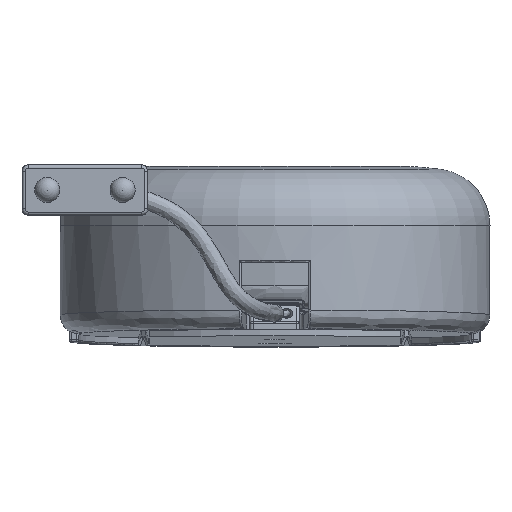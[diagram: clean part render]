
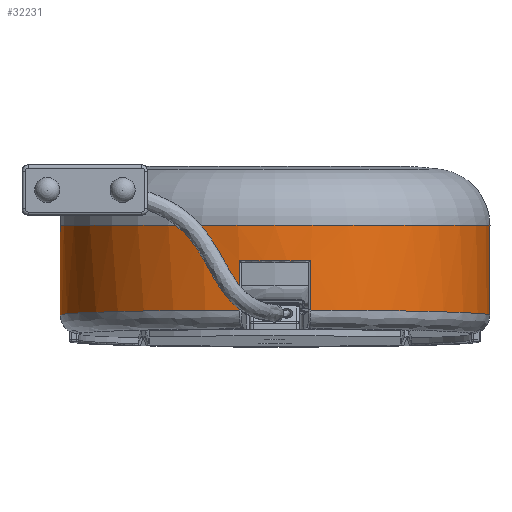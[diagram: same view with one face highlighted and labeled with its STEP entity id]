
A CAD part, front view. The second image highlights one B-rep face of the part: STEP entity #32231.
In plain terms, the highlighted cylindrical face has radius 34.2 mm (diameter 68.4 mm), a partial arc.
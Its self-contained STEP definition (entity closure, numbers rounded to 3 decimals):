
#479=CIRCLE('',#34410,34.2);
#4516=FACE_OUTER_BOUND('',#6460,.T.);
#6460=EDGE_LOOP('',(#23717,#23718,#23719,#23720,#23721,#23722,#23723,#23724));
#8314=ELLIPSE('',#34382,34.232,34.2);
#8324=ELLIPSE('',#34406,34.21,34.2);
#8326=ELLIPSE('',#34409,34.21,34.2);
#8906=LINE('',#53393,#11361);
#8913=LINE('',#53871,#11368);
#8923=LINE('',#54038,#11378);
#8924=LINE('',#54041,#11379);
#11361=VECTOR('',#37996,10.);
#11368=VECTOR('',#38041,10.);
#11378=VECTOR('',#38073,10.);
#11379=VECTOR('',#38076,10.);
#14095=VERTEX_POINT('',#53390);
#14096=VERTEX_POINT('',#53392);
#14099=VERTEX_POINT('',#53432);
#14113=VERTEX_POINT('',#53862);
#14123=VERTEX_POINT('',#54031);
#14124=VERTEX_POINT('',#54035);
#14125=VERTEX_POINT('',#54037);
#14126=VERTEX_POINT('',#54039);
#17688=EDGE_CURVE('',#14095,#14096,#8906,.T.);
#17692=EDGE_CURVE('',#14096,#14099,#8314,.T.);
#17715=EDGE_CURVE('',#14099,#14113,#8913,.T.);
#17732=EDGE_CURVE('',#14113,#14123,#8324,.T.);
#17734=EDGE_CURVE('',#14124,#14095,#8326,.T.);
#17735=EDGE_CURVE('',#14125,#14124,#8923,.T.);
#17736=EDGE_CURVE('',#14126,#14125,#479,.T.);
#17737=EDGE_CURVE('',#14123,#14126,#8924,.T.);
#23717=ORIENTED_EDGE('',*,*,#17715,.F.);
#23718=ORIENTED_EDGE('',*,*,#17692,.F.);
#23719=ORIENTED_EDGE('',*,*,#17688,.F.);
#23720=ORIENTED_EDGE('',*,*,#17734,.F.);
#23721=ORIENTED_EDGE('',*,*,#17735,.F.);
#23722=ORIENTED_EDGE('',*,*,#17736,.F.);
#23723=ORIENTED_EDGE('',*,*,#17737,.F.);
#23724=ORIENTED_EDGE('',*,*,#17732,.F.);
#31567=CYLINDRICAL_SURFACE('',#34408,34.2);
#32231=ADVANCED_FACE('',(#4516),#31567,.T.);
#34382=AXIS2_PLACEMENT_3D('',#53433,#38001,#38002);
#34406=AXIS2_PLACEMENT_3D('',#54032,#38065,#38066);
#34408=AXIS2_PLACEMENT_3D('',#54034,#38069,#38070);
#34409=AXIS2_PLACEMENT_3D('',#54036,#38071,#38072);
#34410=AXIS2_PLACEMENT_3D('',#54040,#38074,#38075);
#37996=DIRECTION('',(0.001,0.,1.));
#38001=DIRECTION('center_axis',(0.,-0.043,
-0.999));
#38002=DIRECTION('ref_axis',(0.,-0.999,0.043));
#38041=DIRECTION('',(0.001,0.,-1.));
#38065=DIRECTION('center_axis',(0.,-0.024,
-1.));
#38066=DIRECTION('ref_axis',(0.,-1.,0.024));
#38069=DIRECTION('center_axis',(0.,0.,1.));
#38070=DIRECTION('ref_axis',(-1.,0.,0.));
#38071=DIRECTION('center_axis',(0.,-0.024,
-1.));
#38072=DIRECTION('ref_axis',(0.,-1.,0.024));
#38073=DIRECTION('',(0.,0.,-1.));
#38074=DIRECTION('center_axis',(0.,0.,
1.));
#38075=DIRECTION('ref_axis',(1.,-0.015,0.));
#38076=DIRECTION('',(0.,0.,1.));
#53390=CARTESIAN_POINT('',(5.647,-33.731,3.807));
#53392=CARTESIAN_POINT('',(5.656,-33.729,11.65));
#53393=CARTESIAN_POINT('',(5.647,-33.731,3.807));
#53432=CARTESIAN_POINT('',(-5.656,-33.729,11.65));
#53433=CARTESIAN_POINT('Origin',(0.,0.,10.19));
#53862=CARTESIAN_POINT('',(-5.647,-33.731,3.807));
#53871=CARTESIAN_POINT('',(-5.656,-33.729,11.65));
#54031=CARTESIAN_POINT('',(-34.196,-0.507,3.013));
#54032=CARTESIAN_POINT('Origin',(0.,0.,3.001));
#54034=CARTESIAN_POINT('Origin',(0.,0.,0.));
#54035=CARTESIAN_POINT('',(34.196,-0.507,3.013));
#54036=CARTESIAN_POINT('Origin',(0.,0.,3.001));
#54037=CARTESIAN_POINT('',(34.196,-0.507,17.257));
#54038=CARTESIAN_POINT('',(34.196,-0.507,0.));
#54039=CARTESIAN_POINT('',(-34.196,-0.507,17.257));
#54040=CARTESIAN_POINT('Origin',(0.,0.,
17.257));
#54041=CARTESIAN_POINT('',(-34.196,-0.507,0.));
